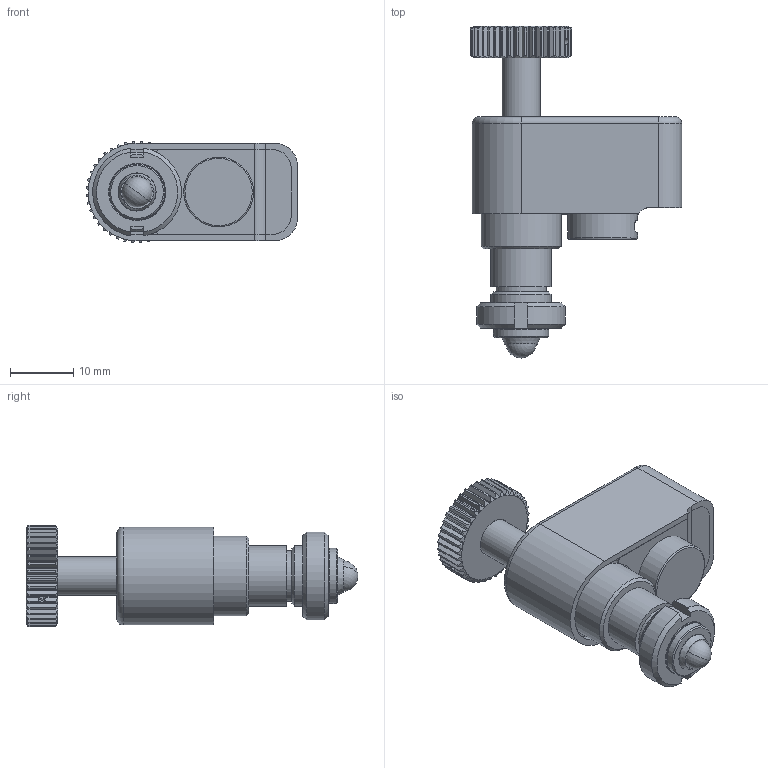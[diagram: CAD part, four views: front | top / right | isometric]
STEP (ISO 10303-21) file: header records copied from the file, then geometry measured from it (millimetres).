
FILE_DESCRIPTION(/* description */ (''),/* implementation_level */ '2;1');
FILE_NAME(/* name */ '总压电螺钉.stp',/* time_stamp */ '2024-04-12T11:26:46+08:00',/* author */ (''),/* organization */ (''),/* preprocessor_version */ 'ST-DEVELOPER v16',/* originating_system */ 'SIEMENS PLM Software NX 11.0',/* authorisation */ '');
FILE_SCHEMA (('AUTOMOTIVE_DESIGN { 1 0 10303 214 3 1 1 1 }'));
Products named in the file (15): picomotor球; 3-3-10陶瓷; ARDP24002-01-012 弹簧夹; ARDP24002-01-007 锁紧螺母; ARDP24002-01-010 头部滚花螺母; ARDP24002-01-003 压线块; ARDP24002-01-011 柔性机构; GB M1.6X6紧定螺钉; ARDP24002-01-006 主体螺母; ARDP24002-01-001A 基座; ARDP24002-01-002A 外壳; GB M1.6X6; ARDP24002-01-008 止动螺母; ARDP24002-01-009 细牙螺杆M6-0.25; 总压电螺钉
Assembly tree (16 placements, depth 3):
  总压电螺钉
    ARDP24002-01-008 止动螺母
    GB M1.6X6  x3
    ARDP24002-01-009 细牙螺杆M6-0.25
      picomotor球
    ARDP24002-01-002A 外壳
    ARDP24002-01-001A 基座
    ARDP24002-01-006 主体螺母
    GB M1.6X6紧定螺钉
    ARDP24002-01-011 柔性机构
    ARDP24002-01-003 压线块
    ARDP24002-01-010 头部滚花螺母
    ARDP24002-01-007 锁紧螺母
    ARDP24002-01-012 弹簧夹
    3-3-10陶瓷
Bounding box: 33.29 x 52.3 x 15.98 mm (x, y, z)
Volume: 6423.4 mm3; surface area: 11476.9 mm2
Topology: 15 solids, 16 shells, 776 faces, 2104 edges, 1358 vertices
Faces by surface type: plane 292, cylinder 281, cone 121, bspline 68, torus 12, sphere 2
Full cylindrical faces by diameter (mm): 0.6 x2, 0.84 x3, 1 x3, 1.25 x5, 1.5 x6, 1.6 x4, 1.8 x3, 3 x3, 3.2 x3, 4 x1, 5.875 x74, 6 x1, 6.2 x1, 6.4 x1, 7.9 x1, 8 x2, 8.7 x1, 9.5 x2, 10 x2, 11 x1, 12.6 x1
Entity records: 72514 total; most frequent: CARTESIAN_POINT 55508, ORIENTED_EDGE 3336, DIRECTION 2652, EDGE_CURVE 1668, VERTEX_POINT 1118, AXIS2_PLACEMENT_3D 1033, EDGE_LOOP 786, ADVANCED_FACE 661
